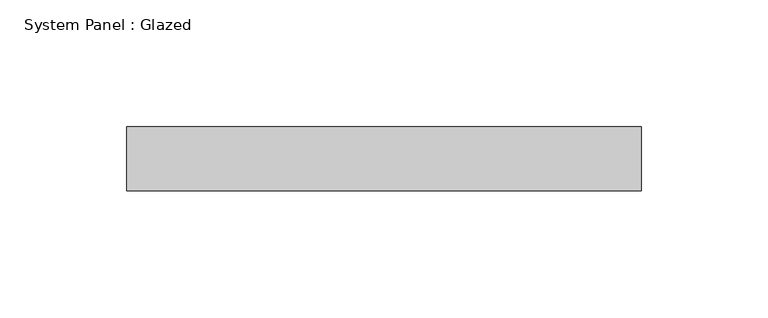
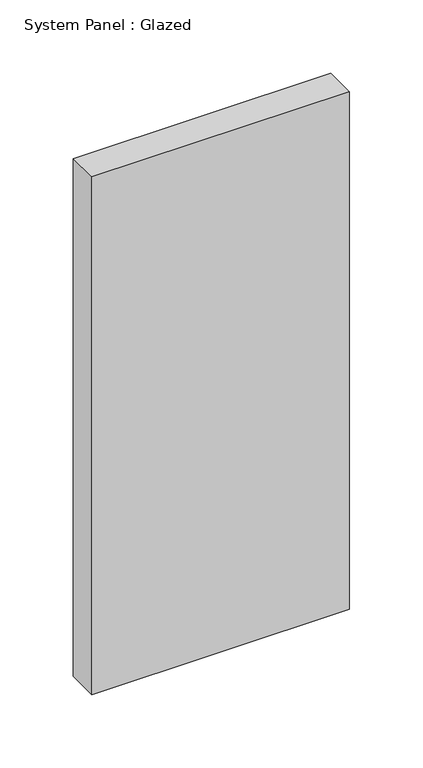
"""IFC4 building model written with IfcOpenShell, lengths in millimetres: plate geometry, System Panel : Glazed."""

from ifc_helpers import new_model, si_unit, origin, origin_with_axes, place, context, project, spatial, polyline, outline, extrude, source, transform, mapped, element, save


def system_panel_glazed_6a4aaf88(model_context):
    return source(origin(), model_context, "Body", "SweptSolid", [
        extrude(outline(polyline([(101.5999998, 19.05), (-101.5999998, 19.05), (-101.5999998, 44.45), (101.5999998, 44.45), (101.5999998, 19.05)])), origin_with_axes(), (0.0, 0.0, 1.0), 431.8),
    ])


if __name__ == "__main__":
    model = new_model("IFC4")
    model_context = context("Model", 3, world=origin())
    ifc_project = project(units=[si_unit("LENGTHUNIT", "METRE", prefix="MILLI")], contexts=[model_context])
    site = spatial("IfcSite", under=ifc_project)
    building = spatial("IfcBuilding", under=site)
    placement = place(None, origin())
    system_panel_glazed_shape = system_panel_glazed_6a4aaf88(model_context)
    element("IfcPlate", 1, ObjectType="System Panel : Glazed", at=placement, inside=building, context=model_context, shape_type="MappedRepresentation", body=[
        mapped(system_panel_glazed_shape, transform((0.0, 0.0, 0.0), x_axis=(1.0, 0.0, 0.0), y_axis=(0.0, 1.0, 0.0), z_axis=(0.0, 0.0, 1.0))),
    ])
    save(model, "model.ifc")
